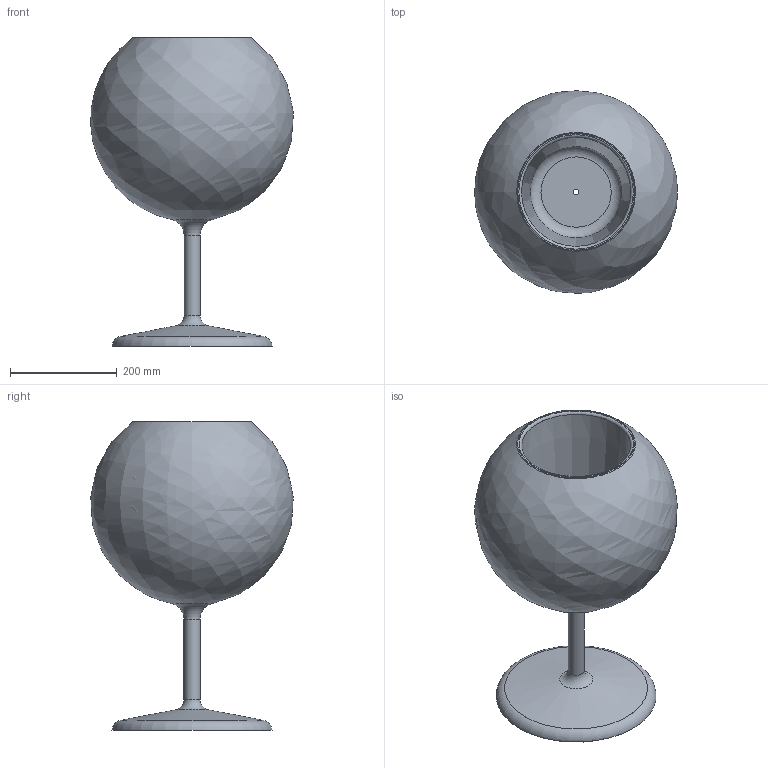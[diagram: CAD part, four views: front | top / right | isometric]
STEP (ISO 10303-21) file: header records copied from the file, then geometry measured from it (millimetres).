
FILE_DESCRIPTION(/* description */ (''),/* implementation_level */ '2;1');
FILE_NAME(/* name */ 'C:\Users\STEFANO\Desktop\3D SEM\0811-03 - GLO TAVOLO LARGE F.E\Parte4.stp',/* time_stamp */ '2019-09-25T10:19:53+02:00',/* author */ ('STEFANO'),/* organization */ (''),/* preprocessor_version */ 'ST-DEVELOPER v17',/* originating_system */ 'Autodesk Inventor 2019',/* authorisation */ '');
FILE_SCHEMA (('AUTOMOTIVE_DESIGN { 1 0 10303 214 3 1 1 }'));
Length unit declared in the file: millimetre
Products named in the file (1): Parte4
Bounding box: 379.64 x 379.33 x 578.47 mm (x, y, z)
Volume: 1302785.7 mm3; surface area: 1305009.1 mm2
Topology: 1 solids, 1 shells, 26 faces, 82 edges, 61 vertices
Faces by surface type: torus 12, plane 5, cone 4, cylinder 3, bspline 2
Full cylindrical faces by diameter (mm): 10.5 x1, 26.051 x1, 30.051 x1
Entity records: 1116 total; most frequent: CARTESIAN_POINT 258, DIRECTION 207, ORIENTED_EDGE 164, AXIS2_PLACEMENT_3D 100, EDGE_CURVE 82, CIRCLE 75, VERTEX_POINT 61, EDGE_LOOP 31
